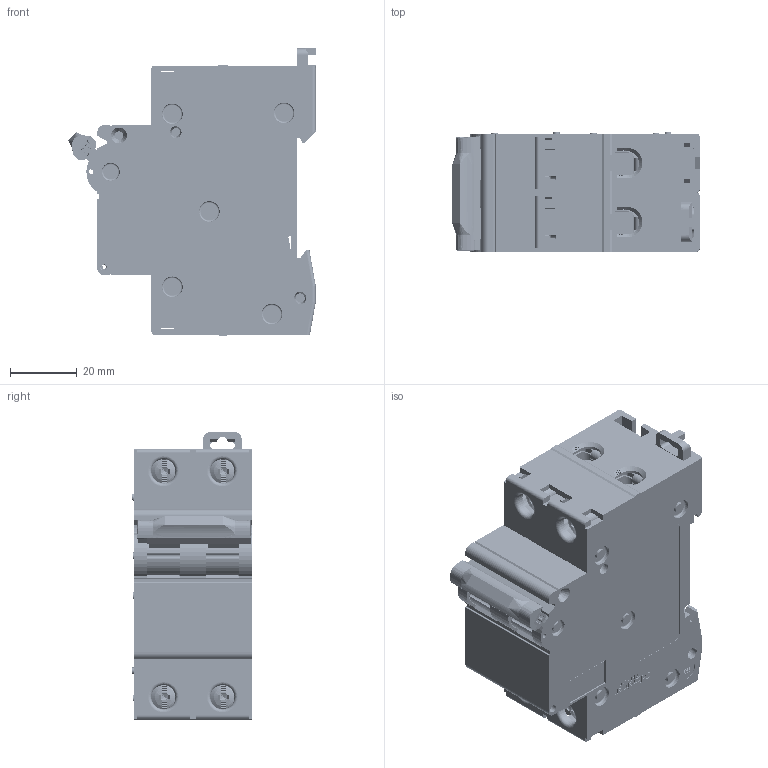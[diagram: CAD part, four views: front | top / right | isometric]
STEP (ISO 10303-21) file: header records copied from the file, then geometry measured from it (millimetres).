
FILE_DESCRIPTION((''),'2;1');
FILE_NAME('C65_2P_ASM','2018-12-16T',('SESA509781'),('Schneider-Electric'),'PRO/ENGINEER BY PARAMETRIC TECHNOLOGY CORPORATION, 2015440','PRO/ENGINEER BY PARAMETRIC TECHNOLOGY CORPORATION, 2015440','');
FILE_SCHEMA(('CONFIG_CONTROL_DESIGN'));
Products named in the file (13): 5120708500; 72583701; GHC1235600; 72431001; 4295306-00_LOCKING_CLIP; 5120708600; GHC1012000; C65_1P_BASIC_ASM; C65_1P_BASIC1_ASM; 72446907; 72663601; GHC1028300; C65_2P_ASM
Assembly tree (30 placements, depth 3):
  C65_2P_ASM
    C65_1P_BASIC_ASM
      5120708500
      72583701
      GHC1235600  x2
      72431001  x2
      4295306-00_LOCKING_CLIP
      5120708600
      GHC1012000  x4
    C65_1P_BASIC1_ASM
      5120708500
      72583701
      GHC1235600  x2
      72431001  x2
      5120708600
      GHC1012000  x4
    72446907  x2
    72663601
    GHC1028300  x2
Bounding box: 74.23 x 35.95 x 86.3 mm (x, y, z)
Volume: 70919.6 mm3; surface area: 90613.3 mm2
Topology: 28 solids, 32 shells, 8618 faces, 23060 edges, 14740 vertices
Faces by surface type: plane 5580, cylinder 1893, cone 416, torus 327, extrusion 208, bspline 130, sphere 64
Entity records: 136638 total; most frequent: CARTESIAN_POINT 32103, ORIENTED_EDGE 22396, DIRECTION 20506, EDGE_CURVE 11200, VECTOR 8346, LINE 8242, VERTEX_POINT 7182, AXIS2_PLACEMENT_3D 6080
